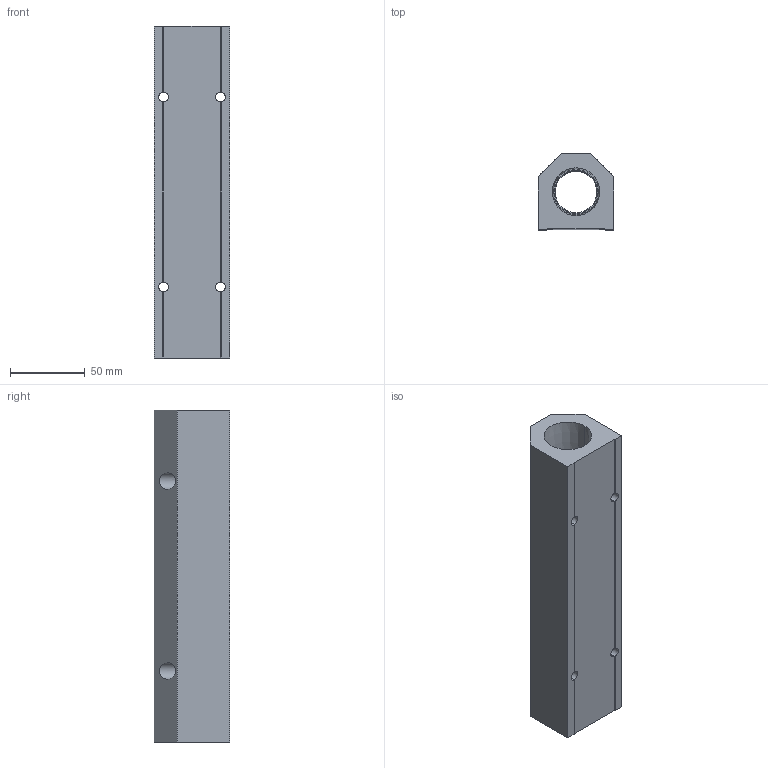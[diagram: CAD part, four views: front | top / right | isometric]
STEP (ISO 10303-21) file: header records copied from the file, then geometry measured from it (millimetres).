
FILE_DESCRIPTION (( 'STEP AP214' ), '1' );
FILE_NAME ('ALM6C-N4N16-222B.STEP', '2023-11-02T06:37:47', ( '' ), ( '' ), 'SwSTEP 2.0', 'SolidWorks 2020', '' );
FILE_SCHEMA (( 'AUTOMOTIVE_DESIGN' ));
Length unit declared in the file: millimetre
Products named in the file (1): ALM6C-N4N16-222B
Bounding box: 50.8 x 50.8 x 222 mm (x, y, z)
Volume: 355909.9 mm3; surface area: 69228.8 mm2
Topology: 1 solids, 1 shells, 292 faces, 764 edges, 504 vertices
Faces by surface type: plane 192, bspline 58, cylinder 22, cone 20
Entity records: 15711 total; most frequent: CARTESIAN_POINT 6249, ORIENTED_EDGE 1528, DIRECTION 1146, EDGE_CURVE 764, LINE 564, VECTOR 564, VERTEX_POINT 504, EDGE_LOOP 344
